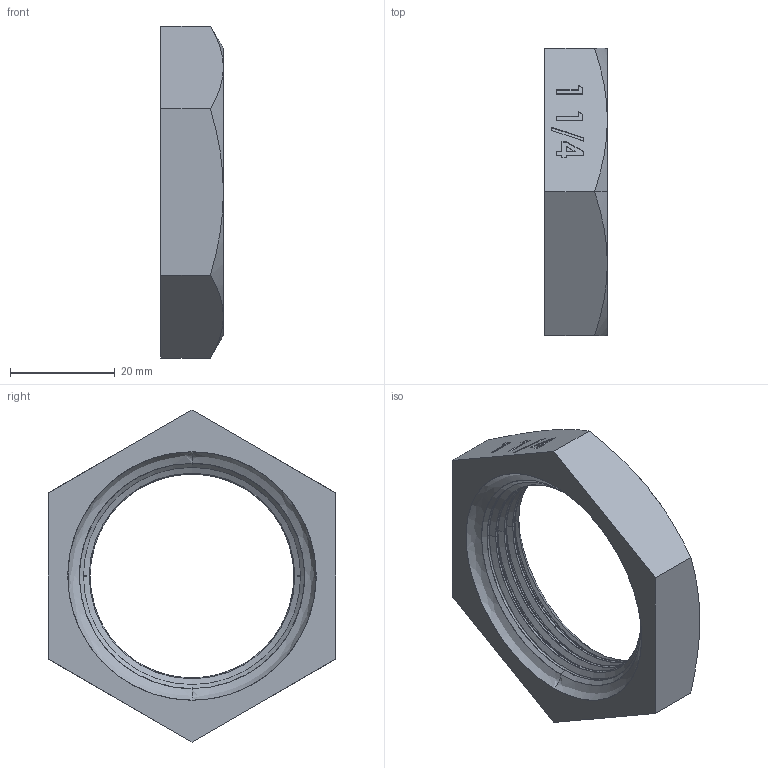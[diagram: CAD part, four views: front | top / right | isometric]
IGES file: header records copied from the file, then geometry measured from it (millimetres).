
Start section: SolidWorks IGES file using analytic representation for surfaces
Global section: file name: C:\Users\Joel Rosa\Desktop\Tubulação\12-06-XXX\12-06-008.IGS; native system: SolidWorks 2011; preprocessor: SolidWorks 2011; author: Joel Rosa; date: 130806.181410; units: millimetre
Bounding box: 12 x 55 x 63.51 mm (x, y, z)
Surface area: 6737 mm2 (no closed solid volume)
Topology: 0 solids, 0 shells, 160 faces, 1447 edges, 1447 vertices
Faces by surface type: bspline 133, revolution 27
